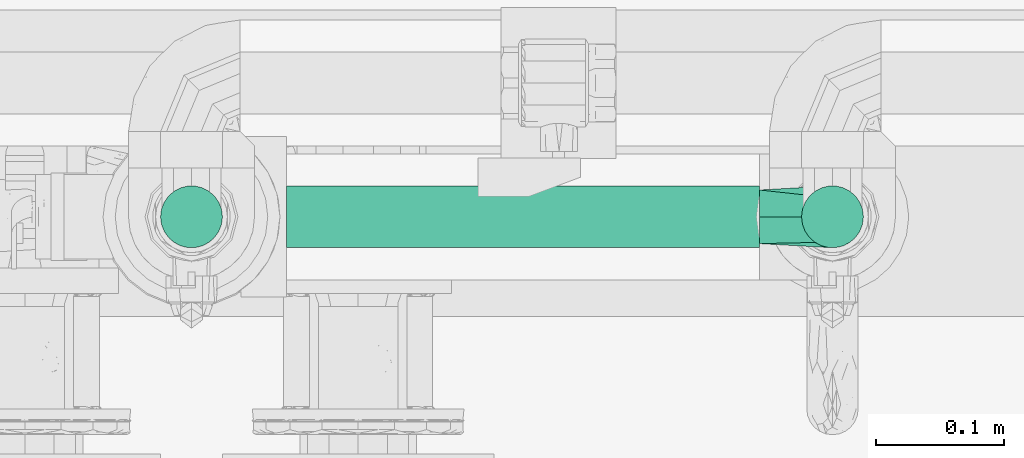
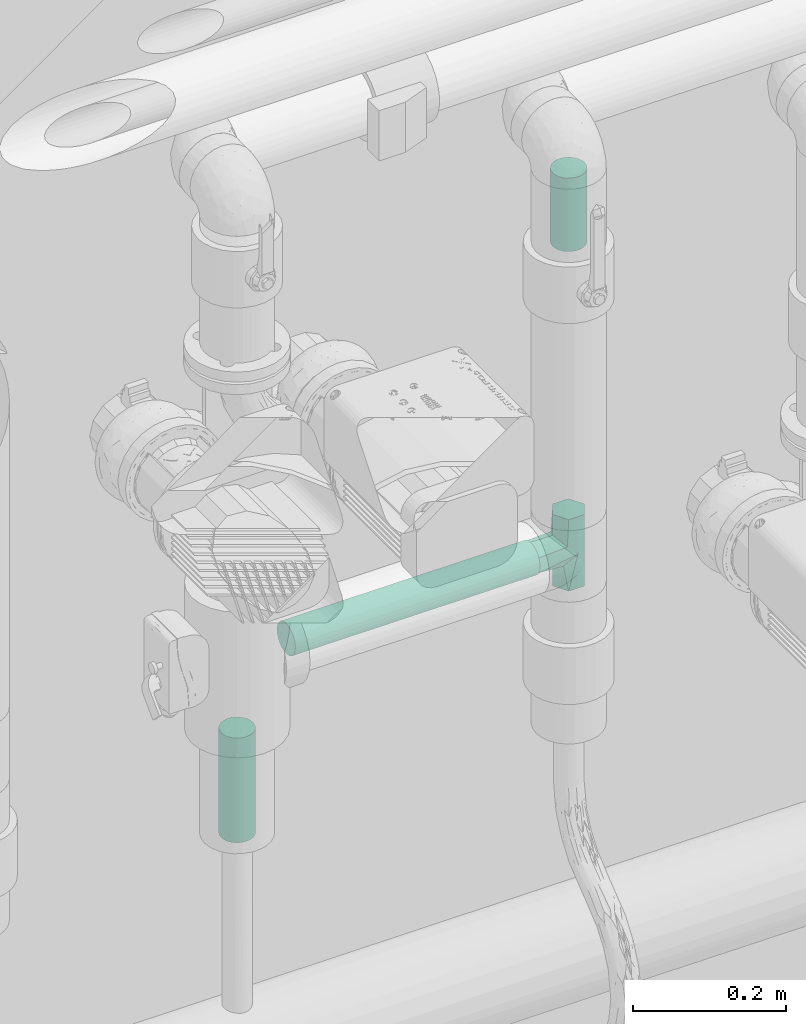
# One storey, part 78 of 94: 3 flow segments, 1 flow fitting.
"""IFC2X3 building model written with IfcOpenShell, lengths in millimetres."""

import ifcopenshell
import ifcopenshell.guid

model = None  # the IFC model being written
_history = None  # IfcOwnerHistory: only IFC2X3 demands one
_inside = {}  # id of a spatial element -> (the spatial element, [elements in it])
_under = {}  # id of a project, library or spatial element -> (it, [spatial elements below it])
_declared = {}  # id of a project -> (the project, [libraries it declares])
_typed = {}  # id of a type object -> (the type object, [elements of that type])
_made_of = {}  # id of a material, layer set ... -> (it, [elements and type objects made of it])


def new_model(schema):
    """Start an empty IFC model of exactly this schema.

    Asked for "IFC4X3", IfcOpenShell would pick the latest addendum, in which some entities
    have other attributes; the version numbers below select the first issue.
    IFC2X3 requires an IfcOwnerHistory on every rooted entity: one is made here for all.
    """
    global model, _history
    if schema == "IFC4X3":
        model = ifcopenshell.file(schema_version=(4, 3, 0, 0))
    else:
        model = ifcopenshell.file(schema=schema)
    _inside.clear()
    _under.clear()
    _declared.clear()
    _typed.clear()
    _made_of.clear()
    _history = None
    if model.schema == "IFC2X3":
        org = make("IfcOrganization", Name="unknown")
        user = make(
            "IfcPersonAndOrganization",
            ThePerson=make("IfcPerson", FamilyName="unknown"),
            TheOrganization=org,
        )
        app = make(
            "IfcApplication",
            ApplicationDeveloper=org,
            Version="unknown",
            ApplicationFullName="unknown",
            ApplicationIdentifier="unknown",
        )
        _history = make(
            "IfcOwnerHistory",
            OwningUser=user,
            OwningApplication=app,
            ChangeAction="ADDED",
            CreationDate=0,
        )
    return model


def make(cls, **values):
    """One entity of the class cls with the attributes given. An attribute that is None is left unset."""
    return model.create_entity(
        cls, **{name: value for name, value in values.items() if value is not None}
    )


def entity(cls, *values):
    """Any entity or typed value of the class cls, its attributes in the order of the schema. None: left unset."""
    e = model.create_entity(cls)
    for i, value in enumerate(values):
        if value is not None:
            e[i] = value
    return e


def rooted(cls, **values):
    """An entity with a GlobalId (a new one), such as an element, a storey or a relation."""
    return make(cls, GlobalId=ifcopenshell.guid.new(), OwnerHistory=_history, **values)


def si_unit(unit_type, name, prefix=None):
    """IfcSIUnit, for example si_unit("LENGTHUNIT", "METRE", prefix="MILLI")."""
    return make("IfcSIUnit", UnitType=unit_type, Prefix=prefix, Name=name)


def converted_unit(unit_type, name, factor, base, dimensions=None, offset=None):
    """IfcConversionBasedUnit, such as the inch: factor (a typed value) times the base unit."""
    return make(
        "IfcConversionBasedUnit"
        if offset is None
        else "IfcConversionBasedUnitWithOffset",
        ConversionOffset=offset,
        Dimensions=None
        if dimensions is None
        else entity("IfcDimensionalExponents", *dimensions),
        UnitType=unit_type,
        Name=name,
        ConversionFactor=make(
            "IfcMeasureWithUnit", ValueComponent=factor, UnitComponent=base
        ),
    )


def derived_unit(unit_type, elements):
    """IfcDerivedUnit: a product of units, each with its exponent."""
    return make(
        "IfcDerivedUnit",
        Elements=[
            make("IfcDerivedUnitElement", Unit=unit, Exponent=power)
            for unit, power in elements
        ],
        UnitType=unit_type,
    )


def assignment(units):
    """IfcUnitAssignment: the units of a project."""
    return None if units is None else make("IfcUnitAssignment", Units=units)


def point(xyz):
    """IfcCartesianPoint."""
    return None if xyz is None else make("IfcCartesianPoint", Coordinates=xyz)


def direction(xyz):
    """IfcDirection."""
    return None if xyz is None else make("IfcDirection", DirectionRatios=xyz)


def frame(location, z_axis=None, x_axis=None):
    """IfcAxis2Placement3D, a coordinate frame: its origin and axes. An axis left out is left unset."""
    return make(
        "IfcAxis2Placement3D",
        Location=point(location),
        Axis=direction(z_axis),
        RefDirection=direction(x_axis),
    )


def frame_2d(location, x_axis=None):
    """IfcAxis2Placement2D, a coordinate frame in the plane: its origin and x axis."""
    return make(
        "IfcAxis2Placement2D", Location=point(location), RefDirection=direction(x_axis)
    )


def origin():
    """The frame at (0, 0, 0) with its axes left unset."""
    return frame((0.0, 0.0, 0.0))


def origin_2d_with_axis():
    """The frame at (0, 0) in the plane with the x axis (1, 0) written out."""
    return frame_2d((0.0, 0.0), x_axis=(1.0, 0.0))


def place(relative_to, where):
    """IfcLocalPlacement: puts the frame where relative to a parent placement (None: the world)."""
    return make(
        "IfcLocalPlacement", PlacementRelTo=relative_to, RelativePlacement=where
    )


def context(
    kind, dimensions, precision=None, world=None, true_north=None, identifier=None
):
    """IfcGeometricRepresentationContext, for example the 3D "Model" context."""
    return make(
        "IfcGeometricRepresentationContext",
        ContextIdentifier=identifier,
        ContextType=kind,
        CoordinateSpaceDimension=dimensions,
        Precision=precision,
        WorldCoordinateSystem=world,
        TrueNorth=true_north,
    )


def subcontext(parent, identifier, kind, view, scale=None):
    """IfcGeometricRepresentationSubContext, for example "Body" below "Model"."""
    return make(
        "IfcGeometricRepresentationSubContext",
        ContextIdentifier=identifier,
        ContextType=kind,
        ParentContext=parent,
        TargetScale=scale,
        TargetView=view,
    )


def project(units=None, contexts=None):
    """IfcProject with its units and contexts."""
    return rooted(
        "IfcProject",
        Name="project",
        RepresentationContexts=contexts,
        UnitsInContext=assignment(units),
    )


def spatial(cls, under=None, at=None, **own):
    """A site, building, storey or space (cls), placed at a placement, below another one or the project."""
    s = rooted(cls, ObjectPlacement=at, **own)
    if under is not None:
        _under.setdefault(under.id(), (under, []))[1].append(s)
    return s


def profile(cls, at=None, kind="AREA", **sizes):
    """A parametric profile (cls). Its sizes go by their IFC names, for example OverallWidth=200.0."""
    return make(cls, ProfileType=kind, Position=at, **sizes)


def circle(**sizes):
    """IfcCircleProfileDef."""
    return profile("IfcCircleProfileDef", **sizes)


def extrude(swept, where, along, depth):
    """IfcExtrudedAreaSolid: the profile swept, set in the frame where, extruded along a direction by depth."""
    return make(
        "IfcExtrudedAreaSolid",
        SweptArea=swept,
        Position=where,
        ExtrudedDirection=direction(along),
        Depth=depth,
    )


def faces_of(points, faces, orient=None, outer=None):
    """IfcFace entities. A face is a list of loops; a loop is a list of indices into points, from 0.

    orient and outer hold one flag for each loop. By default every Orientation is true, the
    first loop of a face is its IfcFaceOuterBound and the others are IfcFaceBound.
    """
    made = []
    for i, loops in enumerate(faces):
        bounds = []
        for j, loop in enumerate(loops):
            is_outer = j == 0 if outer is None else outer[i][j]
            bounds.append(
                make(
                    "IfcFaceOuterBound" if is_outer else "IfcFaceBound",
                    Bound=make("IfcPolyLoop", Polygon=[points[k] for k in loop]),
                    Orientation=True if orient is None else orient[i][j],
                )
            )
        made.append(make("IfcFace", Bounds=bounds))
    return made


def faceted_brep(points, faces, orient=None, outer=None, voids=None):
    """IfcFacetedBrep: a solid bounded by flat faces; with voids (closed shells), ...WithVoids."""
    shared = [point(p) for p in points]
    hull = make("IfcClosedShell", CfsFaces=faces_of(shared, faces, orient, outer))
    if voids is None:
        return make("IfcFacetedBrep", Outer=hull)
    return make(
        "IfcFacetedBrepWithVoids",
        Outer=hull,
        Voids=[
            make(cls, CfsFaces=faces_of(shared, fs, o, b)) for cls, fs, o, b in voids
        ],
    )


def shape(context_of_items, identifier, shape_type, items):
    """IfcShapeRepresentation: the items that make up one representation, for example the "Body"."""
    return make(
        "IfcShapeRepresentation",
        ContextOfItems=context_of_items,
        RepresentationIdentifier=identifier,
        RepresentationType=shape_type,
        Items=items,
    )


def source(mapping_origin, context_of_items, identifier, shape_type, items):
    """IfcRepresentationMap: a shape defined once, which mapped items show again and again."""
    return make(
        "IfcRepresentationMap",
        MappingOrigin=mapping_origin,
        MappedRepresentation=shape(context_of_items, identifier, shape_type, items),
    )


def transform(
    local_origin,
    x_axis=None,
    y_axis=None,
    z_axis=None,
    scale=None,
    scale2=None,
    scale3=None,
    uniform=True,
):
    """IfcCartesianTransformationOperator3D, or its non-uniform kind. x_axis, y_axis, z_axis: its Axis1, 2, 3."""
    if uniform:
        return make(
            "IfcCartesianTransformationOperator3D",
            Axis1=direction(x_axis),
            Axis2=direction(y_axis),
            LocalOrigin=point(local_origin),
            Scale=scale,
            Axis3=direction(z_axis),
        )
    return make(
        "IfcCartesianTransformationOperator3DnonUniform",
        Axis1=direction(x_axis),
        Axis2=direction(y_axis),
        LocalOrigin=point(local_origin),
        Scale=scale,
        Axis3=direction(z_axis),
        Scale2=scale2,
        Scale3=scale3,
    )


def mapped(mapping_source, mapping_target):
    """IfcMappedItem: shows the shape of a source again, moved by a transform."""
    return make(
        "IfcMappedItem", MappingSource=mapping_source, MappingTarget=mapping_target
    )


def material(Name=None, Category=None):
    """IfcMaterial."""
    return make("IfcMaterial", Name=Name, Category=Category)


def made_of(thing, what):
    """Note that an element or type object is made of a material, layer set ...; save() writes the relation."""
    if what is not None:
        _made_of.setdefault(what.id(), (what, []))[1].append(thing)
    return thing


def type_object(cls, material=None, **own):
    """A type object (cls), such as IfcWallType, which elements share."""
    return made_of(rooted(cls, **own), material)


def type_shapes(of_type, sources):
    """Give a type object the sources (RepresentationMaps) that its elements show as mapped items."""
    of_type.RepresentationMaps = sources


def element(
    cls,
    number,
    at=None,
    inside=None,
    cuts=None,
    type_object=None,
    material=None,
    context=None,
    identifier="Body",
    shape_type=None,
    held_by="IfcProductDefinitionShape",
    body=None,
    shapes=None,
    **own,
):
    """One element of the class cls, such as IfcWall. Its Tag is "e" and its number.

    at: its placement. inside: the storey or other place that contains it. cuts: it is an
    opening in that element (IfcRelVoidsElement). A single representation is given by context,
    identifier, shape_type and body (its items); several are given by shapes. held_by: the class
    of the entity that holds the representations. save() writes the other relations.
    """
    e = rooted(cls, Tag="e%d" % number, ObjectPlacement=at, **own)
    if body is not None:
        shapes = [shape(context, identifier, shape_type, body)]
    if shapes is not None:
        e.Representation = make(held_by, Representations=shapes)
    if inside is not None:
        _inside.setdefault(inside.id(), (inside, []))[1].append(e)
    if cuts is not None:
        rooted(
            "IfcRelVoidsElement", RelatingBuildingElement=cuts, RelatedOpeningElement=e
        )
    if type_object is not None:
        _typed.setdefault(type_object.id(), (type_object, []))[1].append(e)
    return made_of(e, material)


def aggregate(whole, parts):
    """IfcRelAggregates: a whole, such as a stair, and the parts it consists of."""
    return rooted("IfcRelAggregates", RelatingObject=whole, RelatedObjects=parts)


def save(model, path):
    """Write the relations noted so far, then the file.

    IfcRelAggregates (storeys below a building ...), IfcRelContainedInSpatialStructure (elements
    in a storey), IfcRelDefinesByType, IfcRelAssociatesMaterial and IfcRelDeclares: one each for
    every whole, place, type object, material and project.
    """
    for whole, parts in _under.values():
        aggregate(whole, parts)
    for where, things in _inside.values():
        rooted(
            "IfcRelContainedInSpatialStructure",
            RelatedElements=things,
            RelatingStructure=where,
        )
    for kind, things in _typed.values():
        rooted("IfcRelDefinesByType", RelatedObjects=things, RelatingType=kind)
    for what, things in _made_of.values():
        rooted("IfcRelAssociatesMaterial", RelatedObjects=things, RelatingMaterial=what)
    for by, libraries in _declared.values():
        rooted("IfcRelDeclares", RelatingContext=by, RelatedDefinitions=libraries)
    model.write(path)


model = new_model("IFC2X3")

# Units and contexts
model_context = context("Model", 3, precision=0.01, world=origin(), true_north=direction((6.123031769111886e-17, 1.0)))
body_context = subcontext(model_context, "Body", "Model", "MODEL_VIEW")
ifc_project = project(units=[si_unit("LENGTHUNIT", "METRE", prefix="MILLI"), si_unit("AREAUNIT", "SQUARE_METRE"), si_unit("VOLUMEUNIT", "CUBIC_METRE"), converted_unit("PLANEANGLEUNIT", "DEGREE", entity("IfcRatioMeasure", 0.017453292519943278), si_unit("PLANEANGLEUNIT", "RADIAN"), dimensions=[0, 0, 0, 0, 0, 0, 0]), si_unit("MASSUNIT", "GRAM", prefix="KILO"), derived_unit("MASSDENSITYUNIT", [(si_unit("MASSUNIT", "GRAM", prefix="KILO"), 1), (si_unit("LENGTHUNIT", "METRE"), -3)]), derived_unit("IONCONCENTRATIONUNIT", [(si_unit("MASSUNIT", "GRAM", prefix="KILO"), 1), (si_unit("LENGTHUNIT", "METRE"), -3)]), derived_unit("MOMENTOFINERTIAUNIT", [(si_unit("LENGTHUNIT", "METRE"), 4)]), si_unit("TIMEUNIT", "SECOND"), si_unit("FREQUENCYUNIT", "HERTZ"), si_unit("THERMODYNAMICTEMPERATUREUNIT", "DEGREE_CELSIUS"), derived_unit("THERMALTRANSMITTANCEUNIT", [(si_unit("MASSUNIT", "GRAM", prefix="KILO"), 1), (si_unit("THERMODYNAMICTEMPERATUREUNIT", "KELVIN"), -1), (si_unit("TIMEUNIT", "SECOND"), -3)]), derived_unit("THERMALCONDUCTANCEUNIT", [(si_unit("MASSUNIT", "GRAM", prefix="KILO"), 1), (si_unit("THERMODYNAMICTEMPERATUREUNIT", "KELVIN"), -1), (si_unit("TIMEUNIT", "SECOND"), -3), (si_unit("LENGTHUNIT", "METRE"), 1)]), derived_unit("VOLUMETRICFLOWRATEUNIT", [(si_unit("LENGTHUNIT", "METRE"), 3), (si_unit("TIMEUNIT", "SECOND"), -1)]), derived_unit("MASSFLOWRATEUNIT", [(si_unit("MASSUNIT", "GRAM", prefix="KILO"), 1), (si_unit("TIMEUNIT", "SECOND"), -1)]), derived_unit("ROTATIONALFREQUENCYUNIT", [(si_unit("TIMEUNIT", "SECOND"), -1)]), si_unit("ELECTRICCURRENTUNIT", "AMPERE"), si_unit("ELECTRICVOLTAGEUNIT", "VOLT"), si_unit("POWERUNIT", "WATT"), si_unit("FORCEUNIT", "NEWTON", prefix="KILO"), si_unit("ILLUMINANCEUNIT", "LUX"), si_unit("LUMINOUSFLUXUNIT", "LUMEN"), si_unit("LUMINOUSINTENSITYUNIT", "CANDELA"), derived_unit("USERDEFINED", [(si_unit("MASSUNIT", "GRAM", prefix="KILO"), -1), (si_unit("LENGTHUNIT", "METRE"), -2), (si_unit("TIMEUNIT", "SECOND"), 3), (si_unit("LUMINOUSFLUXUNIT", "LUMEN"), 1)]), derived_unit("USERDEFINED", [(si_unit("MASSUNIT", "GRAM", prefix="KILO"), 1), (si_unit("TIMEUNIT", "SECOND"), -3), (si_unit("LENGTHUNIT", "METRE"), 3), (si_unit("ELECTRICCURRENTUNIT", "AMPERE"), -2)]), derived_unit("SOUNDPOWERUNIT", [(si_unit("MASSUNIT", "GRAM", prefix="KILO"), 1), (si_unit("TIMEUNIT", "SECOND"), -3), (si_unit("LENGTHUNIT", "METRE"), 2)]), derived_unit("SOUNDPRESSUREUNIT", [(si_unit("MASSUNIT", "GRAM", prefix="KILO"), 1), (si_unit("LENGTHUNIT", "METRE"), -1), (si_unit("TIMEUNIT", "SECOND"), -2)]), derived_unit("LINEARVELOCITYUNIT", [(si_unit("LENGTHUNIT", "METRE"), 1), (si_unit("TIMEUNIT", "SECOND"), -1)]), si_unit("PRESSUREUNIT", "PASCAL"), derived_unit("USERDEFINED", [(si_unit("MASSUNIT", "GRAM", prefix="KILO"), 1), (si_unit("LENGTHUNIT", "METRE"), -2), (si_unit("TIMEUNIT", "SECOND"), -2)]), derived_unit("LINEARFORCEUNIT", [(si_unit("MASSUNIT", "GRAM", prefix="KILO"), 1), (si_unit("TIMEUNIT", "SECOND"), -2)]), derived_unit("PLANARFORCEUNIT", [(si_unit("MASSUNIT", "GRAM", prefix="KILO"), 1), (si_unit("LENGTHUNIT", "METRE"), -1), (si_unit("TIMEUNIT", "SECOND"), -2)]), derived_unit("SPECIFICHEATCAPACITYUNIT", [(si_unit("THERMODYNAMICTEMPERATUREUNIT", "KELVIN"), -1), (si_unit("LENGTHUNIT", "METRE"), 2), (si_unit("TIMEUNIT", "SECOND"), -2)]), derived_unit("HEATINGVALUEUNIT", [(si_unit("LENGTHUNIT", "METRE"), 2), (si_unit("TIMEUNIT", "SECOND"), -2)]), derived_unit("VAPORPERMEABILITYUNIT", [(si_unit("LENGTHUNIT", "METRE"), -1), (si_unit("TIMEUNIT", "SECOND"), 1)]), derived_unit("DYNAMICVISCOSITYUNIT", [(si_unit("MASSUNIT", "GRAM", prefix="KILO"), 1), (si_unit("TIMEUNIT", "SECOND"), -1), (si_unit("LENGTHUNIT", "METRE"), -1)]), derived_unit("THERMALEXPANSIONCOEFFICIENTUNIT", [(si_unit("THERMODYNAMICTEMPERATUREUNIT", "KELVIN"), -1)]), derived_unit("MODULUSOFELASTICITYUNIT", [(si_unit("MASSUNIT", "GRAM", prefix="KILO"), 1), (si_unit("LENGTHUNIT", "METRE"), -1), (si_unit("TIMEUNIT", "SECOND"), -2)]), derived_unit("ISOTHERMALMOISTURECAPACITYUNIT", [(si_unit("LENGTHUNIT", "METRE"), 3), (si_unit("MASSUNIT", "GRAM", prefix="KILO"), -1)]), derived_unit("MOISTUREDIFFUSIVITYUNIT", [(si_unit("TIMEUNIT", "SECOND"), -1), (si_unit("LENGTHUNIT", "METRE"), 2)])], contexts=[model_context])

# Site, building, storey
site_placement = place(None, origin())
site = spatial("IfcSite", under=ifc_project, at=site_placement, Name="Default", CompositionType="ELEMENT")
building_placement = place(site_placement, origin())
building = spatial("IfcBuilding", under=site, at=building_placement, CompositionType="ELEMENT")
storey_placement = place(building_placement, origin())
storey = spatial("IfcBuildingStorey", under=building, at=storey_placement, Name="Niveau 0", CompositionType="ELEMENT", Elevation=0.0)

# Flow segments
pipe_segment_type_1 = type_object("IfcPipeSegmentType", Name="Canalisation:Bride acier", PredefinedType="NOTDEFINED")
flow_segment_1_placement = place(storey_placement, origin())
element("IfcFlowSegment", 1, at=flow_segment_1_placement, inside=storey, type_object=pipe_segment_type_1, Name="Canalisation:Bride acier", ObjectType="Canalisation:Bride acier", context=body_context, shape_type="SweptSolid", body=[
    extrude(circle(Radius=24.13, at=origin_2d_with_axis()), frame((-8972.14586555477, 9922.47054616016, 2495.0), z_axis=(0.0, 0.0, 1.0), x_axis=(-1.0, 0.0, 0.0)), (0.0, 0.0, 1.0), 116.99999999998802),
])
pipe_segment_type_2 = type_object("IfcPipeSegmentType", Name="Canalisation:Standard", PredefinedType="NOTDEFINED")
flow_segment_2_placement = place(storey_placement, origin())
element("IfcFlowSegment", 2, at=flow_segment_2_placement, inside=storey, type_object=pipe_segment_type_2, Name="Canalisation:Standard", ObjectType="Canalisation:Standard", context=body_context, shape_type="SweptSolid", body=[
    extrude(circle(Radius=24.13, at=frame_2d((-2.1657342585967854e-12, 5.414335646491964e-13), x_axis=(1.0, 0.0))), frame((-9398.145865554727, 9922.470546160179, 2010.5899653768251), z_axis=(1.0, 0.0, 0.0), x_axis=(0.0, 1.0, 0.0)), (0.0, 0.0, 1.0), 368.99999999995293),
])
flow_segment_3_placement = place(storey_placement, origin())
element("IfcFlowSegment", 3, at=flow_segment_3_placement, inside=storey, type_object=pipe_segment_type_2, Name="Canalisation:Standard", ObjectType="Canalisation:Standard", context=body_context, shape_type="SweptSolid", body=[
    extrude(circle(Radius=24.13, at=origin_2d_with_axis()), frame((-9472.145865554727, 9922.470546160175, 1727.60345755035)), (0.0, 0.0, 1.0), 166.9865078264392),
])

# Flow fitting
ifc_material = material(Name="<Unnamed>")
pipe_fitting_type = type_object("IfcPipeFittingType", Name="Té - Générique:Standard", PredefinedType="NOTDEFINED", material=ifc_material)
shared_shape = source(origin(), body_context, "Body", "Brep", [
    faceted_brep([(-57.0, -24.150000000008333, 0.0), (-57.0, -21.13125000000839, 5.228628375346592), (-57.0, -18.112500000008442, 10.457256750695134), (-57.0, -12.075000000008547, 20.9145135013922), (-57.0, 0.0, 20.91451350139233), (-57.0, 12.074999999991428, 20.914513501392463), (-57.0, 18.112499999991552, 10.457256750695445), (-57.0, 24.149999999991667, 0.0), (-57.0, 18.112499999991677, -10.45725675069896), (-57.0, 12.074999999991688, -20.91451350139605), (-57.0, 0.0, -20.914513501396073), (-57.0, -12.075000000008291, -20.914513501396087), (-57.0, -18.11250000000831, -10.457256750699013), (57.0, 24.149999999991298, 0.0), (57.0, 18.112499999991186, 10.457256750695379), (57.0, 12.074999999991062, 20.914513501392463), (57.0, 0.0, 20.91451350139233), (57.0, -12.075000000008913, 20.9145135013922), (57.0, -18.112500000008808, 10.457256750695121), (57.0, -24.150000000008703, 0.0), (57.0, -21.13125000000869, -5.228628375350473), (57.0, -18.112500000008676, -10.457256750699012), (57.0, -12.075000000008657, -20.914513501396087), (57.0, 0.0, -20.914513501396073), (57.0, 12.074999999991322, -20.91451350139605), (57.0, 19.810999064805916, -7.515370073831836), (20.83718491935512, -20.837184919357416, 8.308413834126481), (17.52436983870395, -17.524369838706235, 16.6168276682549), (0.0, 0.0, 24.14999999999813), (-24.149999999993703, -24.15000000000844, 0.0), (-20.07541040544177, -20.07541040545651, 7.677582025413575), (-13.535622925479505, -13.535622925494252, 20.000235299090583), (24.150000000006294, -24.150000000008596, 0.0), (-18.842811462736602, -18.842811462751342, 10.000117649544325), (20.075410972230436, -20.075410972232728, -7.677580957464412), (18.842811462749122, -18.842811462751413, -10.000117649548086), (13.535622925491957, -13.535622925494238, -20.000235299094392), (-20.837184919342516, -20.837184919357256, -8.308413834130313), (0.0, 0.0, -24.15000000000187), (-17.524369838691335, -17.524369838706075, -16.616827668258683), (-18.112499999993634, -57.0, -10.457256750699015), (-12.074999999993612, -57.0, -20.914513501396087), (0.0, -57.0, -20.914513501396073), (12.075000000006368, -57.0, -20.91451350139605), (19.81099920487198, -57.0, -7.515369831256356), (24.150000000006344, -57.0, 0.0), (18.11250000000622, -57.0, 10.45725675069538), (12.075000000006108, -57.0, 20.914513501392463), (0.0, -57.0, 20.91451350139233), (-12.074999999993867, -57.0, 20.9145135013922), (-19.810999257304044, -57.0, 7.515369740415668), (-24.149999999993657, -57.0, 0.0)], [[[0, 1, 2, 3, 4, 5, 6, 7, 8, 9, 10, 11, 12]], [[13, 14, 15, 16, 17, 18, 19, 20, 21, 22, 23, 24, 25]], [[26, 19, 18]], [[27, 18, 17]], [[28, 17, 16, 15]], [[29, 30, 1]], [[2, 31, 3]], [[19, 26, 32]], [[0, 29, 1]], [[18, 27, 26]], [[17, 28, 27]], [[15, 14, 13, 7, 6, 5]], [[30, 2, 1]], [[31, 4, 3]], [[31, 28, 4]], [[5, 28, 15]], [[2, 30, 33, 31]], [[28, 5, 4]], [[9, 8, 7, 13, 25, 24]], [[21, 34, 35, 36]], [[0, 37, 29]], [[9, 24, 38]], [[12, 39, 37]], [[10, 9, 38, 11]], [[34, 21, 20]], [[23, 22, 36]], [[32, 20, 19]], [[36, 22, 21]], [[39, 11, 38]], [[32, 34, 20]], [[12, 37, 0]], [[38, 24, 23]], [[39, 12, 11]], [[36, 38, 23]], [[40, 41, 42, 43, 44, 45, 46, 47, 48, 49, 50, 51]], [[33, 49, 31]], [[29, 51, 50]], [[50, 33, 30, 29]], [[31, 49, 48]], [[27, 47, 46]], [[32, 46, 45]], [[49, 33, 50]], [[31, 48, 28]], [[46, 32, 26, 27]], [[28, 48, 47]], [[28, 47, 27]], [[35, 43, 36]], [[38, 41, 39]], [[43, 35, 44]], [[44, 35, 34, 32]], [[36, 43, 42]], [[29, 40, 51]], [[32, 45, 44]], [[39, 41, 40]], [[36, 42, 38]], [[40, 29, 37, 39]], [[38, 42, 41]]]),
])
type_shapes(pipe_fitting_type, [shared_shape])
flow_fitting_placement = place(storey_placement, frame((-8972.145865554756, 9922.470546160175, 2010.5899653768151), z_axis=(0.0, 1.0, 0.0), x_axis=(0.0, 0.0, 1.0)))
element("IfcFlowFitting", 4, at=flow_fitting_placement, inside=storey, type_object=pipe_fitting_type, material=ifc_material, Name="Té - Générique:Standard", ObjectType="Té - Générique:Standard", context=body_context, shape_type="MappedRepresentation", body=[
    mapped(shared_shape, transform((0.0, 0.0, 0.0), scale=1.0)),
])

save(model, "model.ifc")
